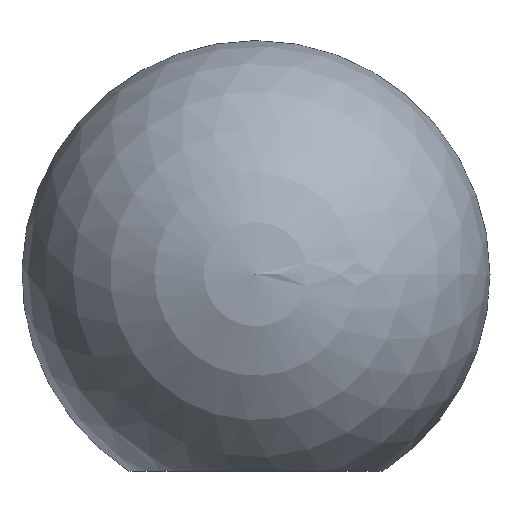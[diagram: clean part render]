
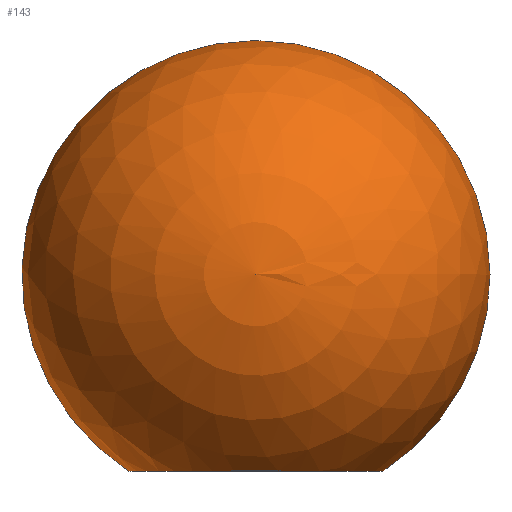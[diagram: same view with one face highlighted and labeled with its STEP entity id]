
A CAD part, top view. The second image highlights one B-rep face of the part: STEP entity #143.
In plain terms, the highlighted spherical face has radius 25 mm.
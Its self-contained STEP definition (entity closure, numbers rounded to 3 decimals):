
#7 = DIRECTION ( 'NONE',  ( 0., 0., 1. ) ) ;
#10 = CARTESIAN_POINT ( 'NONE',  ( 0., 21., 0. ) ) ;
#15 = DIRECTION ( 'NONE',  ( 1., 0., 0. ) ) ;
#17 = CIRCLE ( 'NONE', #202, 13.565 ) ;
#33 = EDGE_LOOP ( 'NONE', ( #130, #44, #222 ) ) ;
#44 = ORIENTED_EDGE ( 'NONE', *, *, #118, .T. ) ;
#47 = AXIS2_PLACEMENT_3D ( 'NONE', #210, #343, #323 ) ;
#66 = CARTESIAN_POINT ( 'NONE',  ( 0., 46., 0. ) ) ;
#93 = CARTESIAN_POINT ( 'NONE',  ( 0., 21., 0. ) ) ;
#101 = CARTESIAN_POINT ( 'NONE',  ( 0., 0., 0. ) ) ;
#118 = EDGE_CURVE ( 'NONE', #155, #153, #270, .T. ) ;
#125 = EDGE_CURVE ( 'NONE', #155, #283, #180, .T. ) ;
#130 = ORIENTED_EDGE ( 'NONE', *, *, #125, .F. ) ;
#143 = ADVANCED_FACE ( 'NONE', ( #297 ), #241, .T. ) ;
#153 = VERTEX_POINT ( 'NONE', #326 ) ;
#155 = VERTEX_POINT ( 'NONE', #66 ) ;
#174 = AXIS2_PLACEMENT_3D ( 'NONE', #93, #207, #318 ) ;
#179 = DIRECTION ( 'NONE',  ( 0., -1., 0. ) ) ;
#180 = CIRCLE ( 'NONE', #174, 25. ) ;
#202 = AXIS2_PLACEMENT_3D ( 'NONE', #101, #179, #293 ) ;
#204 = EDGE_CURVE ( 'NONE', #283, #153, #17, .T. ) ;
#207 = DIRECTION ( 'NONE',  ( 0., 0., -1. ) ) ;
#210 = CARTESIAN_POINT ( 'NONE',  ( 0., 21., 0. ) ) ;
#222 = ORIENTED_EDGE ( 'NONE', *, *, #204, .F. ) ;
#241 = SPHERICAL_SURFACE ( 'NONE', #275, 25. ) ;
#270 = CIRCLE ( 'NONE', #47, 25. ) ;
#275 = AXIS2_PLACEMENT_3D ( 'NONE', #10, #7, #15 ) ;
#283 = VERTEX_POINT ( 'NONE', #307 ) ;
#293 = DIRECTION ( 'NONE',  ( 0., 0., -1. ) ) ;
#297 = FACE_OUTER_BOUND ( 'NONE', #33, .T. ) ;
#307 = CARTESIAN_POINT ( 'NONE',  ( 13.565, 0., 0. ) ) ;
#318 = DIRECTION ( 'NONE',  ( -1., 0., 0. ) ) ;
#323 = DIRECTION ( 'NONE',  ( 1., 0., 0. ) ) ;
#326 = CARTESIAN_POINT ( 'NONE',  ( -13.565, 0., 0. ) ) ;
#343 = DIRECTION ( 'NONE',  ( 0., 0., 1. ) ) ;
